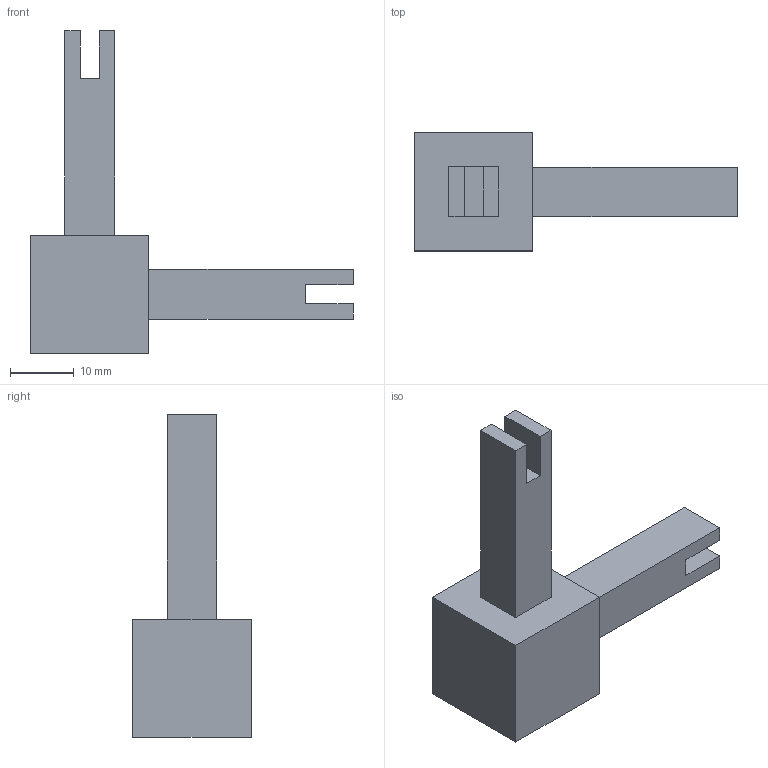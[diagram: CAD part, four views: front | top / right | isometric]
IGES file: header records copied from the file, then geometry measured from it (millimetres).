
Start section: Data from Parasolid IGES Translator 20.0.26, Copyright(c) 2006 Siemens P LM Software. All Rights Reserved.
Global section: file name: 9298821.igs; native system: By Siemens PLM Incorporated; preprocessor: XPlus GENERIC/IGES 20.0.26; author: Noname; organization: Noname; date: 20210827.153956; units: millimetre
Bounding box: 50.5 x 18.5 x 50.5 mm (x, y, z)
Surface area: 4194.3 mm2 (no closed solid volume)
Topology: 0 solids, 0 shells, 24 faces, 120 edges, 120 vertices
Faces by surface type: extrusion 24
